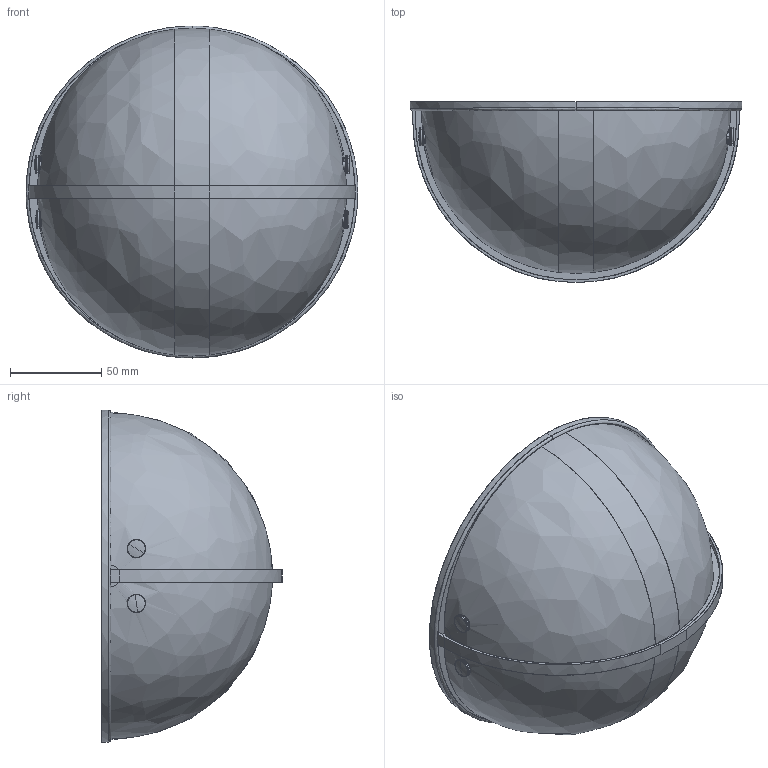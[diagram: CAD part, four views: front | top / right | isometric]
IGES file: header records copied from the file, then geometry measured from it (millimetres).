
Start section: Comment
Global section: file name: Perla.igs; native system:  By UGS Corp.; preprocessor: XPlus GENERIC/IGES 3.0; author: Author; organization: Title; date: 20210305.160732; units: inch
Bounding box: 181.71 x 99 x 182 mm (x, y, z)
Surface area: 199123.3 mm2 (no closed solid volume)
Topology: 0 solids, 0 shells, 1561 faces, 7910 edges, 7886 vertices
Faces by surface type: bspline 1561
